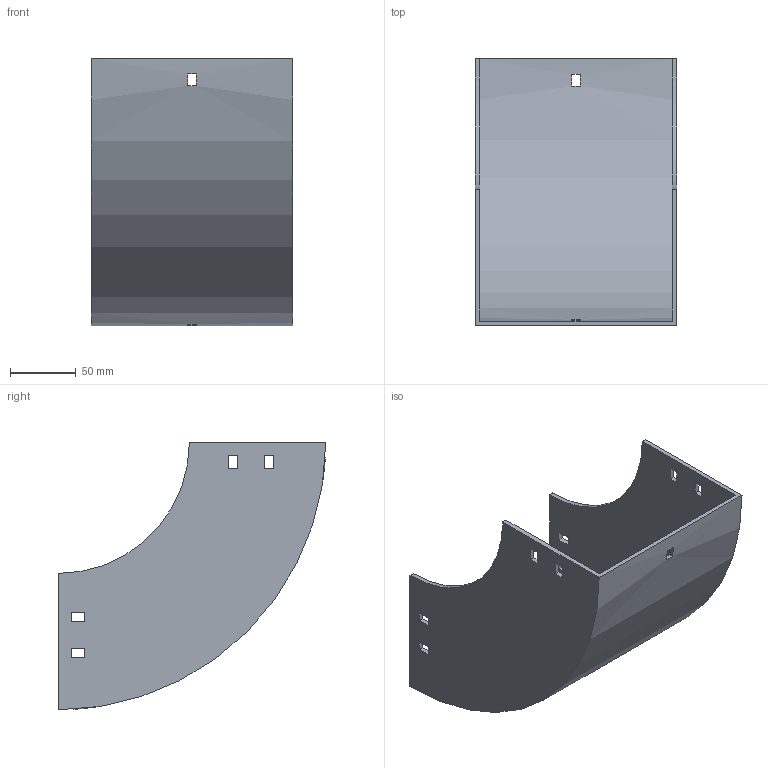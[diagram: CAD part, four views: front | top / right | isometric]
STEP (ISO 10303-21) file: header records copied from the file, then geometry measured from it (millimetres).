
FILE_DESCRIPTION (( 'STEP AP214' ), '1' );
FILE_NAME ('30B1D150.step', '2025-02-21T09:48:33', ( '' ), ( '' ), 'SwSTEP 2.0', 'SolidWorks 2023', '' );
FILE_SCHEMA (( 'AUTOMOTIVE_DESIGN' ));
Length unit declared in the file: millimetre
Products named in the file (1): 30B1D150
Bounding box: 154 x 204 x 204 mm (x, y, z)
Volume: 334900.5 mm3; surface area: 196145.3 mm2
Topology: 1 solids, 1 shells, 50 faces, 144 edges, 96 vertices
Faces by surface type: plane 46, cylinder 4
Entity records: 1687 total; most frequent: CARTESIAN_POINT 291, ORIENTED_EDGE 288, DIRECTION 262, EDGE_CURVE 144, LINE 128, VECTOR 128, VERTEX_POINT 96, EDGE_LOOP 70
